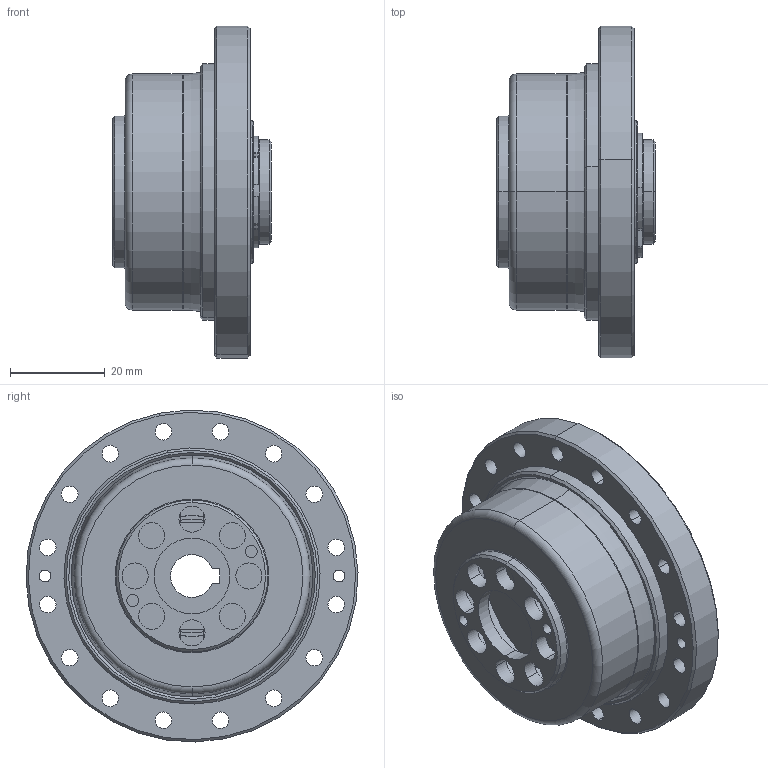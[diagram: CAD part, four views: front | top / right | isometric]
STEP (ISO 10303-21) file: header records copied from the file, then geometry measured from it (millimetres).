
FILE_DESCRIPTION (( 'STEP AP203' ), '1' );
FILE_NAME ('FCG-20-XXX-CO.STEP', '2022-03-04T03:48:21', ( '' ), ( '' ), 'SwSTEP 2.0', 'SolidWorks 2016', '' );
FILE_SCHEMA (( 'CONFIG_CONTROL_DESIGN' ));
Length unit declared in the file: millimetre
Products named in the file (1): FCG-20-XXX-CO
Bounding box: 33.5 x 69.98 x 69.98 mm (x, y, z)
Volume: 39653.9 mm3; surface area: 40055.1 mm2
Topology: 33 solids, 33 shells, 632 faces, 1681 edges, 1075 vertices
Faces by surface type: cylinder 277, plane 201, torus 62, cone 46, sphere 46
Entity records: 19689 total; most frequent: CARTESIAN_POINT 4012, DIRECTION 3468, ORIENTED_EDGE 3132, EDGE_CURVE 1566, AXIS2_PLACEMENT_3D 1370, VERTEX_POINT 1006, CIRCLE 737, VECTOR 728
